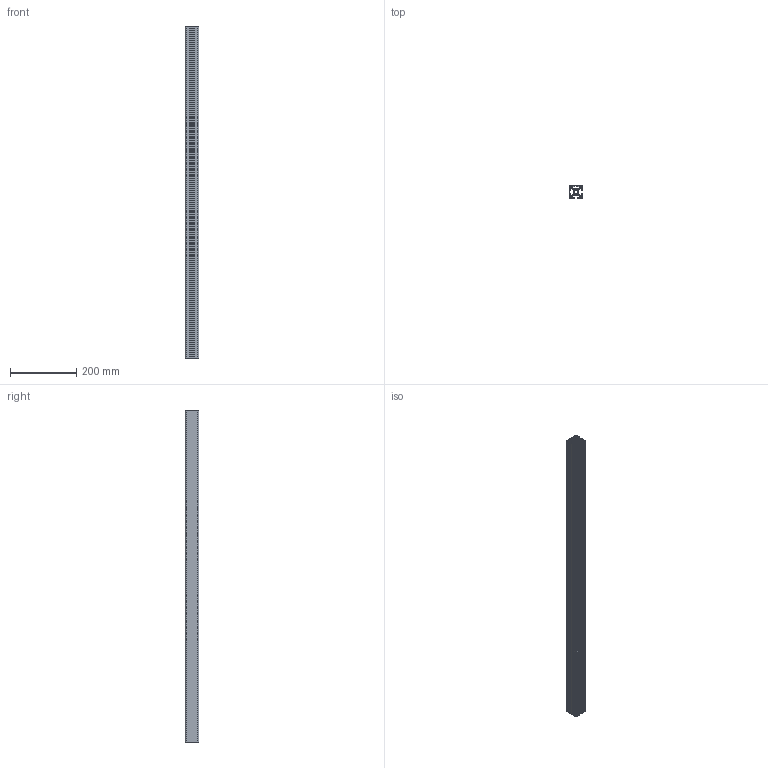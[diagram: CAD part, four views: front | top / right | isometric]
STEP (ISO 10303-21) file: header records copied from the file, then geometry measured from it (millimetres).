
FILE_DESCRIPTION (( 'STEP AP214' ), '1' );
FILE_NAME ('444L2C1 Êîíñòðóêöèîííûé ïðîôèëü 40õ40L2C1.STEP', '2014-12-19T07:57:22', ( 'XTreme.ws' ), ( 'XTreme.ws' ), 'SwSTEP 2.0', 'SolidWorks 2014', '' );
FILE_SCHEMA (( 'AUTOMOTIVE_DESIGN' ));
Length unit declared in the file: millimetre
Products named in the file (2): 444L2C1 Êîíñòðóêöèîííûé ïðîôèëü 40õ40L2C1
Bounding box: 40 x 40 x 1000 mm (x, y, z)
Volume: 484468.5 mm3; surface area: 632997.6 mm2
Topology: 1 solids, 1 shells, 390 faces, 1164 edges, 776 vertices
Faces by surface type: plane 206, cylinder 184
Entity records: 13273 total; most frequent: CARTESIAN_POINT 2332, ORIENTED_EDGE 2328, DIRECTION 2316, EDGE_CURVE 1164, VECTOR 796, LINE 796, VERTEX_POINT 776, AXIS2_PLACEMENT_3D 760
